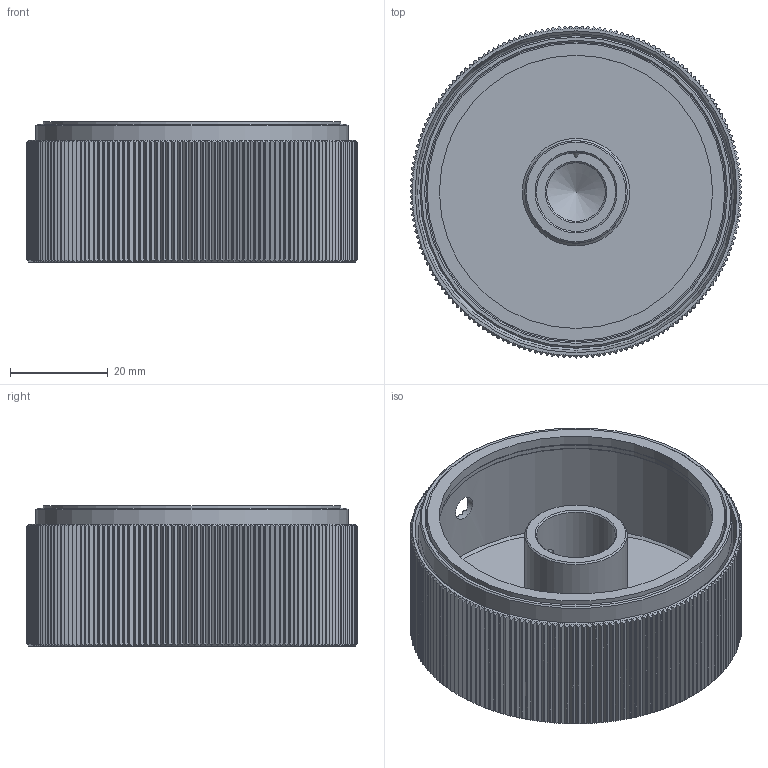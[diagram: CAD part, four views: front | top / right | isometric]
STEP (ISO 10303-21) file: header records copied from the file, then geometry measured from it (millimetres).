
FILE_DESCRIPTION(/* description */ ('Unknown'),/* implementation_level */ '2;1');
FILE_NAME(/* name */ 'RE010',/* time_stamp */ '2023-07-07T17:35:01+02:00',/* author */ ('Unknown'),/* organization */ ('Unknown'),/* preprocessor_version */ 'ST-DEVELOPER v18.102',/* originating_system */ 'Solid Edge',/* authorisation */ 'Unknown');
FILE_SCHEMA (('AUTOMOTIVE_DESIGN {1 0 10303 214 3 1 1}'));
Length unit declared in the file: millimetre
Products named in the file (8): RE010; RE010EXT_oa_0; RE002-06; RE005-001_oa_1; RE005-01; G-61-56-2; GRP-4x3; RE010-12_oa_2
Assembly tree (7 placements, depth 3):
  RE010
    RE010EXT_oa_0
      RE002-06
      RE005-001_oa_1
      RE005-01
      G-61-56-2
      GRP-4x3
      RE010-12_oa_2
Bounding box: 68 x 68 x 28.7 mm (x, y, z)
Volume: 19635.8 mm3; surface area: 25834.8 mm2
Topology: 4 solids, 4 shells, 971 faces, 2138 edges, 1181 vertices
Faces by surface type: plane 393, cone 381, cylinder 196, bspline 1
Full cylindrical faces by diameter (mm): 3.242 x1, 5 x1, 12 x1, 16.2 x1, 21 x1, 56 x1, 56.5 x1, 61 x1, 61.5 x2, 64 x1, 65 x1
Entity records: 33221 total; most frequent: CARTESIAN_POINT 6538, ORIENTED_EDGE 4188, DIRECTION 4095, EDGE_CURVE 2094, AXIS2_PLACEMENT_3D 1756, VERTEX_POINT 1172, FACE_BOUND 1020, EDGE_LOOP 1019
